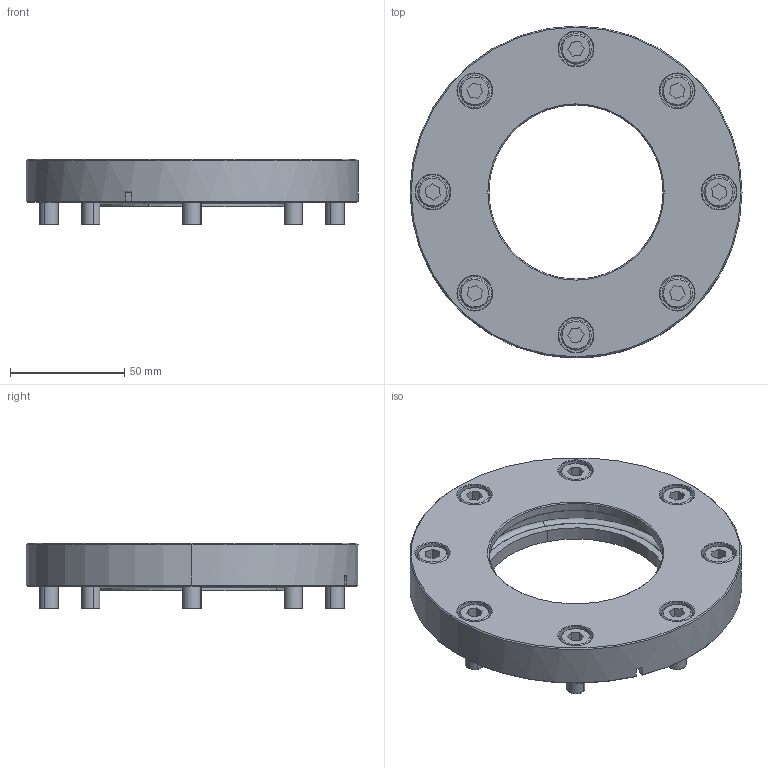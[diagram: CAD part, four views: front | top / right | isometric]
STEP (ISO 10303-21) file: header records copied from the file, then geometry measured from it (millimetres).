
FILE_DESCRIPTION (( 'STEP AP214' ), '1' );
FILE_NAME ('JK080-G-A-V.STEP', '2018-01-18T06:08:08', ( '' ), ( '' ), 'SwSTEP 2.0', 'SolidWorks 2016', '' );
FILE_SCHEMA (( 'AUTOMOTIVE_DESIGN' ));
Length unit declared in the file: millimetre
Products named in the file (1): JK080-G-A-V
Bounding box: 145 x 145 x 28.6 mm (x, y, z)
Volume: 193775.4 mm3; surface area: 65175.4 mm2
Topology: 12 solids, 12 shells, 272 faces, 597 edges, 372 vertices
Faces by surface type: plane 99, cylinder 81, cone 60, torus 32
Entity records: 10753 total; most frequent: CARTESIAN_POINT 1400, DIRECTION 1396, ORIENTED_EDGE 1194, EDGE_CURVE 597, AXIS2_PLACEMENT_3D 554, VERTEX_POINT 372, EDGE_LOOP 319, LINE 288
